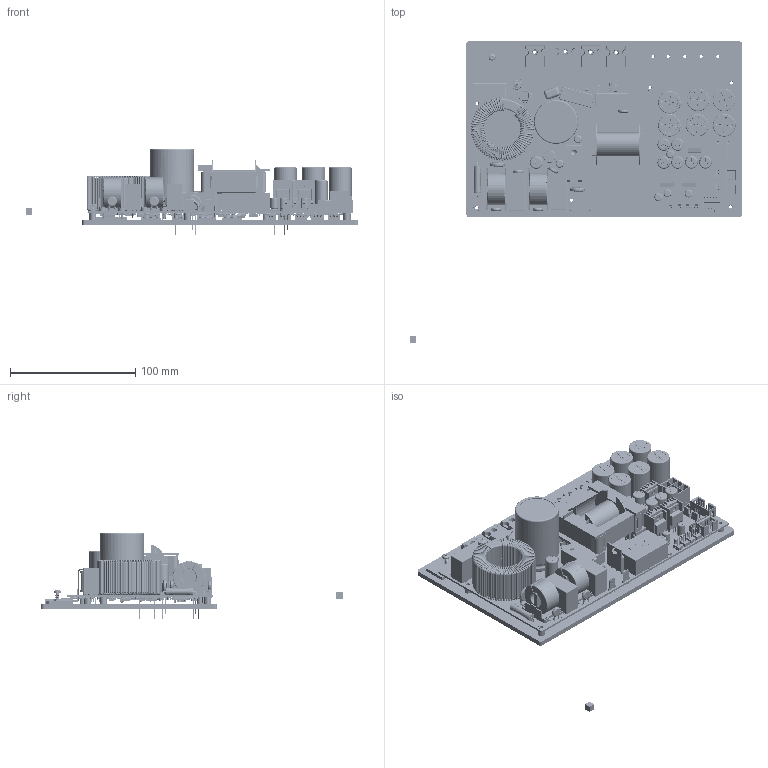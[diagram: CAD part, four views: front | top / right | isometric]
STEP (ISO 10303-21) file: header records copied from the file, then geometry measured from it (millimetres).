
FILE_DESCRIPTION(('Open CASCADE Model'),'2;1');
FILE_NAME('Open CASCADE Shape Model','2025-02-01T00:08:15',('Author'),( 'Open CASCADE'),'Open CASCADE STEP processor 6.8','Open CASCADE 6.8' ,'Unknown');
FILE_SCHEMA(('AUTOMOTIVE_DESIGN { 1 0 10303 214 1 1 1 1 }'));
Length unit declared in the file: millimetre
Products named in the file (509): PCB; Board; Open CASCADE STEP translator 6.8 1.1.1; C445; User_Library-RAD_CAP_12WMM; User_Library-RAD_CAP_12WMM_1_1; User_Library-RAD_CAP_12WMM_2_1; User_Library-RAD_CAP_12WMM_3_1; C57; User_Library-FILM_BLUE_P2250L2650W1050H1650PD80_RGB255; C56; KK3; User_Library-DY-CN-2,5; User_Library-DY-CN-2,5_Part_1; User_Library-DY-CN-2,5_Part_2; UD3; TO220AB; C46; User_Library-C0805-2; C95; t491d106k050at; Open CASCADE STEP translator 6.8 1.8.1.1; Open CASCADE STEP translator 6.8 1.8.1.2; Open CASCADE STEP translator 6.8 1.8.1.3; Open CASCADE STEP translator 6.8 1.8.1.4; Open CASCADE STEP translator 6.8 1.8.1.5; Open CASCADE STEP translator 6.8 1.8.1.6; Open CASCADE STEP translator 6.8 1.8.1.7; C93; B1; User_Library-M3x6mm_Phillips; 7178481456; Extruded; Q22; TO-247-bent; Q19; UIGBT; User_Library-SO-6W; Fusion001; Fusion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
Assembly tree (897 placements, depth 4):
  PCB
    Board
      Open CASCADE STEP translator 6.8 1.1.1
    C445
      User_Library-RAD_CAP_12WMM
        User_Library-RAD_CAP_12WMM_1_1
        User_Library-RAD_CAP_12WMM_2_1
        User_Library-RAD_CAP_12WMM_3_1
    C57
      User_Library-FILM_BLUE_P2250L2650W1050H1650PD80_RGB255
    C56
      User_Library-FILM_BLUE_P2250L2650W1050H1650PD80_RGB255
    KK3
      User_Library-DY-CN-2,5
        User_Library-DY-CN-2,5_Part_1
        User_Library-DY-CN-2,5_Part_2
    UD3
      TO220AB
    C46
      User_Library-C0805-2
    C95
      t491d106k050at
        Open CASCADE STEP translator 6.8 1.8.1.1
        Open CASCADE STEP translator 6.8 1.8.1.2
        Open CASCADE STEP translator 6.8 1.8.1.3
        Open CASCADE STEP translator 6.8 1.8.1.4
        Open CASCADE STEP translator 6.8 1.8.1.5
        Open CASCADE STEP translator 6.8 1.8.1.6
        Open CASCADE STEP translator 6.8 1.8.1.7
    C93
      User_Library-C0805-2
    B1
      User_Library-M3x6mm_Phillips
      7178481456
        Extruded
    Q22
      TO-247-bent
    Q19
      TO-247-bent
    UIGBT
      User_Library-SO-6W
        Fusion001
        Fusion
      7178036784
        Extruded
    D44
      SW3DPS-DIOD_SMD_10BF10-DEFAULT
    D43
      SW3DPS-DIOD_SMD_10BF10-DEFAULT
    C92
      User_Library-C0805-2
    C91
      User_Library-C0805-2
    R131
      User_Library-Resistor0805
    D2
      User_Library-Resistor_PTH_AC05_Vishay_5W_Vertical
    LED5
      7178483376
      7178483536
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Bounding box: 264.94 x 240.31 x 69 mm (x, y, z)
Volume: 434278.1 mm3; surface area: 288771.8 mm2
Topology: 683 solids, 691 shells, 40008 faces, 98935 edges, 59270 vertices
Faces by surface type: plane 16514, bspline 9572, cylinder 9453, sphere 2421, torus 1683, cone 365
Full cylindrical faces by diameter (mm): 0.163 x6, 0.385 x1, 0.508 x1, 0.762 x27, 0.8 x51, 0.812 x29, 0.966 x1, 1 x14, 1.016 x40, 1.1 x2, 1.118 x12, 1.2 x261, 1.27 x3, 1.3 x22, 1.32 x8, 1.397 x3, 1.4 x3, 1.498 x11, 1.5 x30, 2 x3, 2.006 x2, 2.05 x6, 3.1 x6, 4.2 x2, 32 x1, 48 x1
Entity records: 327943 total; most frequent: CARTESIAN_POINT 114319, ORIENTED_EDGE 36198, DIRECTION 33035, EDGE_CURVE 18108, VERTEX_POINT 11389, AXIS2_PLACEMENT_3D 11035, LINE 10965, VECTOR 10965
